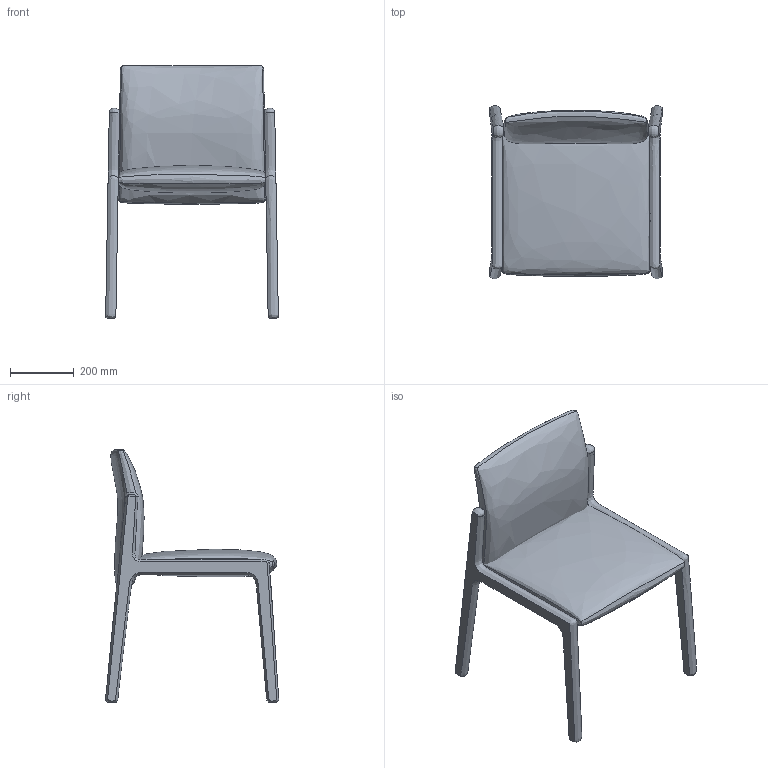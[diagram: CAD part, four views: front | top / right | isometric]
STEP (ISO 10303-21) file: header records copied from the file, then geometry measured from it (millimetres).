
FILE_DESCRIPTION(/* description */ (''),/* implementation_level */ '2;1');
FILE_NAME(/* name */ 'BRENTA-chair',/* time_stamp */ '2026-06-29T18:49:15+02:00',/* author */ (''),/* organization */ (''),/* preprocessor_version */ 'ST-DEVELOPER v16.5',/* originating_system */ '',/* authorisation */ '');
FILE_SCHEMA (('CONFIG_CONTROL_DESIGN'));
Length unit declared in the file: millimetre
Products named in the file (1): Document
Bounding box: 540.92 x 542.64 x 792.35 mm (x, y, z)
Volume: 28921840.2 mm3; surface area: 1247348.6 mm2
Topology: 4 solids, 4 shells, 28 faces, 44 edges, 28 vertices
Faces by surface type: bspline 16, plane 12
Entity records: 12118 total; most frequent: CARTESIAN_POINT 11708, ORIENTED_EDGE 88, EDGE_CURVE 44, EDGE_LOOP 32, ADVANCED_FACE 28, FACE_OUTER_BOUND 28, VERTEX_POINT 28, B_SPLINE_CURVE_WITH_KNOTS 20
